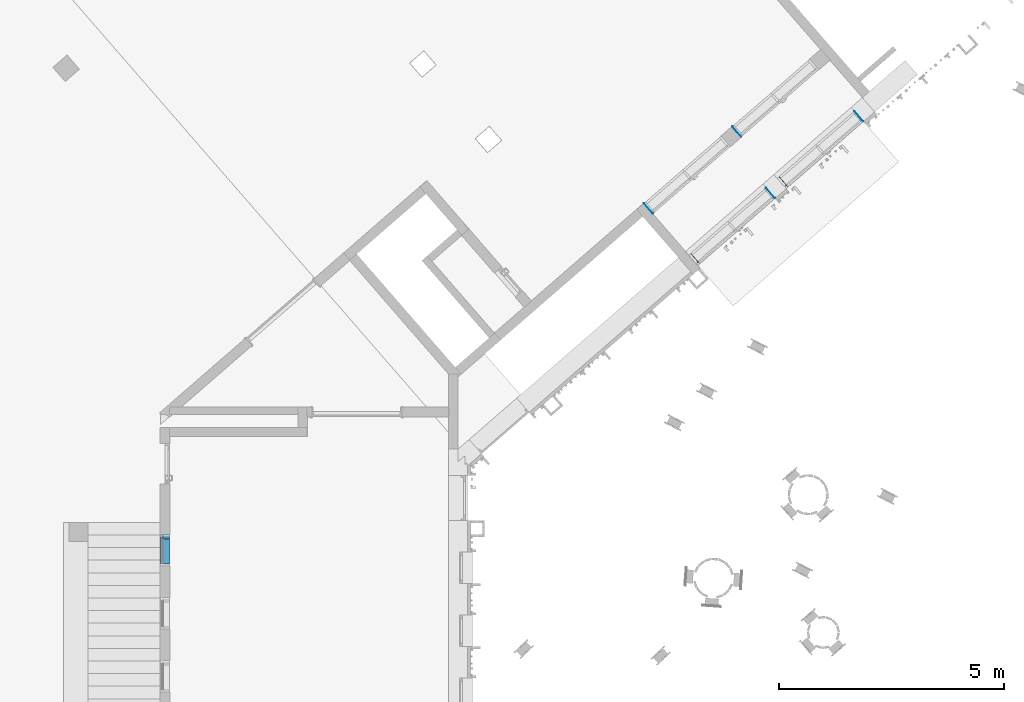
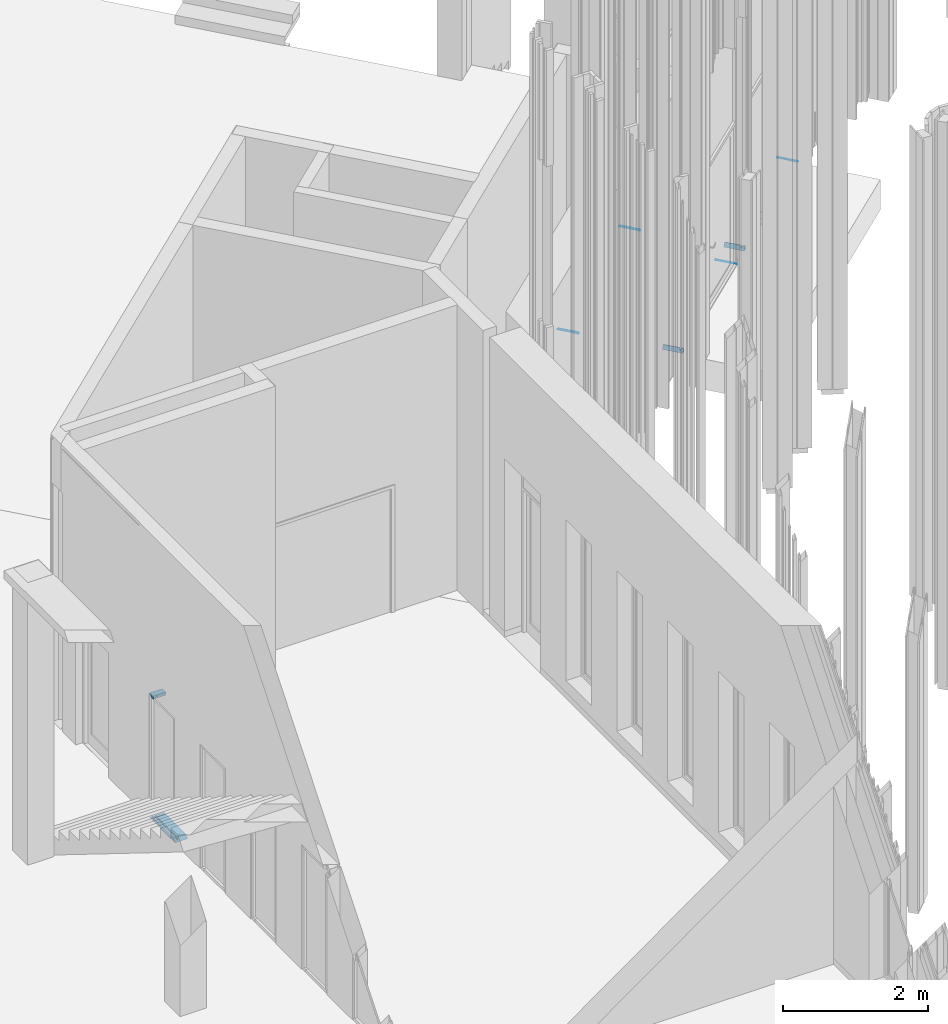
# One storey, part 65 of 390: 9 discrete accessories, 5 elements without a shape of their own.
"""IFC2X3 building model written with IfcOpenShell, lengths in millimetres."""

from ifc_helpers import new_model, entity, si_unit, converted_unit, derived_unit, money_unit, direction, frame, origin_with_axes, place, context, subcontext, project, spatial, polyline, outline, extrude, clip, halfspace, material, material_list, type_object, element, aggregate, save


model = new_model("IFC2X3")

# Units and contexts
model_context = context("Model", 3, precision=1e-05, world=origin_with_axes(), true_north=direction((0.0, 1.0)))
body_context = subcontext(model_context, "Body", "Model", "MODEL_VIEW")
ifc_project = project(units=[si_unit("LENGTHUNIT", "METRE", prefix="MILLI"), si_unit("AREAUNIT", "SQUARE_METRE"), si_unit("VOLUMEUNIT", "CUBIC_METRE"), converted_unit("PLANEANGLEUNIT", "DEGREE", entity("IfcPlaneAngleMeasure", 0.0174532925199), si_unit("PLANEANGLEUNIT", "RADIAN"), dimensions=[0, 0, 0, 0, 0, 0, 0]), si_unit("SOLIDANGLEUNIT", "STERADIAN"), money_unit("EUR"), converted_unit("TIMEUNIT", "Year", entity("IfcTimeMeasure", 31556926.0), si_unit("TIMEUNIT", "SECOND"), dimensions=[0, 0, 1, 0, 0, 0, 0]), si_unit("MASSUNIT", "GRAM", prefix="KILO"), si_unit("THERMODYNAMICTEMPERATUREUNIT", "DEGREE_CELSIUS"), si_unit("LUMINOUSINTENSITYUNIT", "LUMEN"), si_unit("ENERGYUNIT", "JOULE", prefix="MEGA"), derived_unit("THERMALCONDUCTANCEUNIT", [(si_unit("POWERUNIT", "WATT"), 1), (si_unit("LENGTHUNIT", "METRE"), -1), (si_unit("THERMODYNAMICTEMPERATUREUNIT", "KELVIN"), -1)]), derived_unit("SPECIFICHEATCAPACITYUNIT", [(si_unit("ENERGYUNIT", "JOULE"), 1), (si_unit("MASSUNIT", "GRAM", prefix="KILO"), -1), (si_unit("THERMODYNAMICTEMPERATUREUNIT", "KELVIN"), -1)]), derived_unit("MASSDENSITYUNIT", [(si_unit("MASSUNIT", "GRAM", prefix="KILO"), 1), (si_unit("VOLUMEUNIT", "CUBIC_METRE"), -1)])], contexts=[model_context])

# Site, building, storey
site_placement = place(None, origin_with_axes())
site = spatial("IfcSite", under=ifc_project, at=site_placement, Name="Site", CompositionType="ELEMENT")
building_placement = place(site_placement, origin_with_axes())
building = spatial("IfcBuilding", under=site, at=building_placement, Name="Building", CompositionType="ELEMENT")
storey_placement = place(building_placement, origin_with_axes())
storey = spatial("IfcBuildingStorey", under=building, at=storey_placement, Name="1 korrus", CompositionType="ELEMENT", Elevation=0.0)

# Curtain wall, discrete accessories
curtain_wall_type_1 = type_object("IfcCurtainWallType", Name="KLF-11", PredefinedType="NOTDEFINED")
curtain_wall_1_placement = place(storey_placement, frame((147184.214705, 72790.554617, -9.48523471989e-05), z_axis=(0.0, 0.0, 1.0), x_axis=(1.0, 0.0, 0.0)))
curtain_wall_1 = element("IfcCurtainWall", 1, at=curtain_wall_1_placement, inside=storey, type_object=curtain_wall_type_1, Name="Klaasfassaad")
ifc_material = material(Name="Aluminium MUST")
discrete_accessory_type_1 = type_object("IfcDiscreteAccessoryType", Name="50 x 300")
discrete_accessory_1_placement = place(curtain_wall_1_placement, frame((-384.054074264, -333.853113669, 0.0), z_axis=(-0.754709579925, -0.656059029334, 0.0), x_axis=(0.0, 0.0, 1.0)))
discrete_accessory_1 = element("IfcDiscreteAccessory", 2, at=discrete_accessory_1_placement, type_object=discrete_accessory_type_1, material=ifc_material, Name="KLF-11 profiil", context=body_context, shape_type="Clipping", body=[
    clip(extrude(outline(polyline([(10.0, -25.0), (10.0, -50.0), (250.0, -50.0), (250.0, 0.0), (-50.0, 0.0), (-50.0, -50.0), (-9.99999999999, -50.0), (-10.0, -25.0), (10.0, -25.0)])), frame((0.0, 0.0, 0.0), z_axis=(0.0, 0.0, 1.0), x_axis=(0.0, 1.0, 0.0)), (0.0, 0.0, 1.0), 61.1233612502), halfspace(frame((30.5616806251, 0.0, 30.5616806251), z_axis=(-0.707106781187, 0.0, -0.707106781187), x_axis=(0.0, 1.0, 0.0)), True)),
])
discrete_accessory_2_placement = place(curtain_wall_1_placement, frame((1290.55338167, 1121.86094016, 0.0), z_axis=(-0.754709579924, -0.656059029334, 0.0), x_axis=(0.0, 0.0, 1.0)))
discrete_accessory_2 = element("IfcDiscreteAccessory", 3, at=discrete_accessory_2_placement, type_object=discrete_accessory_type_1, material=ifc_material, Name="KLF-11 profiil", context=body_context, shape_type="Clipping", body=[
    clip(extrude(outline(polyline([(-50.0, -9.70212941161), (250.0, -9.70212941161), (250.0, 0.0), (-50.0, 0.0), (-50.0, -9.70212941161)])), frame((0.0, 0.0, 0.0), z_axis=(0.0, 0.0, 1.0), x_axis=(0.0, 1.0, 0.0)), (0.0, 0.0, 1.0), 9.70212941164), halfspace(frame((0.0, 0.0, 0.0), z_axis=(-0.707106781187, 0.0, 0.707106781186), x_axis=(0.0, -1.0, 0.0)), True)),
])
aggregate(curtain_wall_1, [discrete_accessory_1, discrete_accessory_2])

curtain_wall_2_placement = place(storey_placement, frame((145221.984499, 71084.8139219, -9.48523471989e-05), z_axis=(0.0, 0.0, 1.0), x_axis=(1.0, 0.0, 0.0)))
curtain_wall_2 = element("IfcCurtainWall", 4, at=curtain_wall_2_placement, inside=storey, type_object=curtain_wall_type_1, Name="Klaasfassaad")
discrete_accessory_3_placement = place(curtain_wall_2_placement, frame((-384.054074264, -333.853113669, 0.0), z_axis=(-0.754709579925, -0.656059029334, 0.0), x_axis=(0.0, 0.0, 1.0)))
discrete_accessory_3 = element("IfcDiscreteAccessory", 5, at=discrete_accessory_3_placement, type_object=discrete_accessory_type_1, material=ifc_material, Name="KLF-11 profiil", context=body_context, shape_type="Clipping", body=[
    clip(extrude(outline(polyline([(10.0, -25.0), (10.0, -50.0), (250.0, -50.0), (250.0, 0.0), (-50.0, 0.0), (-50.0, -50.0), (-9.99999999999, -50.0), (-10.0, -25.0), (10.0, -25.0)])), frame((0.0, 0.0, 0.0), z_axis=(0.0, 0.0, 1.0), x_axis=(0.0, 1.0, 0.0)), (0.0, 0.0, 1.0), 61.1233612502), halfspace(frame((30.5616806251, 0.0, 30.5616806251), z_axis=(-0.707106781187, 0.0, -0.707106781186), x_axis=(0.0, 1.0, 0.0)), True)),
])
discrete_accessory_4_placement = place(curtain_wall_2_placement, frame((1290.55338167, 1121.86094016, 0.0), z_axis=(-0.754709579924, -0.656059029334, 0.0), x_axis=(0.0, 0.0, 1.0)))
discrete_accessory_4 = element("IfcDiscreteAccessory", 6, at=discrete_accessory_4_placement, type_object=discrete_accessory_type_1, material=ifc_material, Name="KLF-11 profiil", context=body_context, shape_type="Clipping", body=[
    clip(extrude(outline(polyline([(-50.0, -9.70212941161), (250.0, -9.70212941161), (250.0, 0.0), (-50.0, 0.0), (-50.0, -9.70212941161)])), frame((0.0, 0.0, 0.0), z_axis=(0.0, 0.0, 1.0), x_axis=(0.0, 1.0, 0.0)), (0.0, 0.0, 1.0), 9.70212941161), halfspace(frame((0.0, 0.0, 0.0), z_axis=(-0.707106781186, 0.0, 0.707106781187), x_axis=(0.0, -1.0, 0.0)), True)),
])
aggregate(curtain_wall_2, [discrete_accessory_3, discrete_accessory_4])

# Curtain wall, discrete accessory
curtain_wall_type_2 = type_object("IfcCurtainWallType", Name="KS-16", PredefinedType="NOTDEFINED")
curtain_wall_3_placement = place(storey_placement, frame((144224.233035, 72231.5017266, -10.0342097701), z_axis=(0.0, 0.0, 1.0), x_axis=(1.0, 0.0, 0.0)))
curtain_wall_3 = element("IfcCurtainWall", 7, at=curtain_wall_3_placement, inside=storey, type_object=curtain_wall_type_2, Name="Klaas-sein")
discrete_accessory_type_2 = type_object("IfcDiscreteAccessoryType", Name="50 x 300")
discrete_accessory_5_placement = place(curtain_wall_3_placement, frame((-422.862182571, -367.588487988, 0.0), z_axis=(-0.754709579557, -0.656059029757, 0.0), x_axis=(0.0, 0.0, 1.0)))
discrete_accessory_5 = element("IfcDiscreteAccessory", 8, at=discrete_accessory_5_placement, type_object=discrete_accessory_type_2, material=ifc_material, Name="KLF-16 profiil", context=body_context, shape_type="Clipping", body=[
    clip(extrude(outline(polyline([(-50.0, -9.70211320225), (250.0, -9.70211320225), (250.0, 0.0), (-50.0, 0.0), (-50.0, -9.70211320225)])), frame((0.0, 0.0, 0.0), z_axis=(0.0, 0.0, 1.0), x_axis=(0.0, 1.0, 0.0)), (0.0, 0.0, 1.0), 9.70211320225), halfspace(frame((4.85105660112, 0.0, 4.85105660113), z_axis=(-0.707106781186, 0.0, -0.707106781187), x_axis=(0.0, 1.0, 0.0)), True)),
])
aggregate(curtain_wall_3, [discrete_accessory_5])

curtain_wall_4_placement = place(storey_placement, frame((146495.325504, 74205.7322919, -4.47035263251e-05), z_axis=(0.0, 0.0, 1.0), x_axis=(1.0, 0.0, 0.0)))
curtain_wall_4 = element("IfcCurtainWall", 9, at=curtain_wall_4_placement, inside=storey, type_object=curtain_wall_type_2, Name="Klaas-sein")
discrete_accessory_type_3 = type_object("IfcDiscreteAccessoryType", Name="50 x 300")
discrete_accessory_6_placement = place(curtain_wall_4_placement, frame((-731.182837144, -635.607543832, 0.0), z_axis=(-0.754709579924, -0.656059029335, 0.0), x_axis=(0.0, 0.0, 1.0)))
discrete_accessory_6 = element("IfcDiscreteAccessory", 10, at=discrete_accessory_6_placement, type_object=discrete_accessory_type_3, material=ifc_material, Name="KS-16 profiil", context=body_context, shape_type="Clipping", body=[
    clip(extrude(outline(polyline([(-50.0, -9.70211320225), (250.0, -9.70211320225), (250.0, 0.0), (-50.0, 0.0), (-50.0, -9.70211320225)])), frame((0.0, 0.0, 0.0), z_axis=(0.0, 0.0, 1.0), x_axis=(0.0, 1.0, 0.0)), (0.0, 0.0, 1.0), 9.70211320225), halfspace(frame((4.85105660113, 0.0, 4.85105660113), z_axis=(-0.707106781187, 0.0, -0.707106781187), x_axis=(0.0, 1.0, 0.0)), True)),
])
aggregate(curtain_wall_4, [discrete_accessory_6])

# Curtain wall, discrete accessories
curtain_wall_type_3 = type_object("IfcCurtainWallType", Name="KS-17", PredefinedType="NOTDEFINED")
curtain_wall_5_placement = place(storey_placement, frame((132939.999926, 64423.3918775, 0.0), z_axis=(0.0, 0.0, 1.0), x_axis=(1.0, 0.0, 0.0)))
curtain_wall_5 = element("IfcCurtainWall", 11, at=curtain_wall_5_placement, inside=storey, type_object=curtain_wall_type_3, Name="Klaas-sein")
ifc_material_list = material_list([ifc_material, ifc_material, ifc_material])
discrete_accessory_type_4 = type_object("IfcDiscreteAccessoryType", Name="50 x 200")
discrete_accessory_7_placement = place(curtain_wall_5_placement, frame((-8.81072992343e-10, 166.666643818, 0.0), z_axis=(0.0, -1.0, 0.0), x_axis=(0.0, 0.0, 1.0)))
discrete_accessory_7 = element("IfcDiscreteAccessory", 12, at=discrete_accessory_7_placement, type_object=discrete_accessory_type_4, material=ifc_material_list, Name="KS-17 profiil", context=body_context, shape_type="Clipping", body=[
    clip(extrude(outline(polyline([(-9.99999999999, -25.0), (10.0, -25.0), (9.99999999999, 0.0), (-9.99999999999, 0.0), (-9.99999999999, -25.0)])), frame((0.0, 0.0, 0.0), z_axis=(0.0, 0.0, 1.0), x_axis=(0.0, 1.0, 0.0)), (0.0, 0.0, 1.0), 599.999976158), halfspace(frame((299.999988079, 0.0, 299.999985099), z_axis=(-0.707106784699, 0.0, -0.707106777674), x_axis=(0.0, 1.0, 0.0)), True)),
    clip(extrude(outline(polyline([(-150.0, -50.0), (-9.99999999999, -50.0), (-9.99999999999, 0.0), (-150.0, 0.0), (-150.0, -50.0)])), frame((0.0, 0.0, 0.0), z_axis=(0.0, 0.0, 1.0), x_axis=(0.0, 1.0, 0.0)), (0.0, 0.0, 1.0), 599.999976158), halfspace(frame((299.999988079, 0.0, 299.999985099), z_axis=(-0.707106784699, 0.0, -0.707106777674), x_axis=(0.0, 1.0, 0.0)), True)),
    clip(extrude(outline(polyline([(50.0, 0.0), (9.99999999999, 0.0), (9.99999999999, -50.0), (50.0, -50.0), (50.0, 0.0)])), frame((0.0, 0.0, 0.0), z_axis=(0.0, 0.0, 1.0), x_axis=(0.0, 1.0, 0.0)), (0.0, 0.0, 1.0), 599.999976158), halfspace(frame((299.999988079, 0.0, 299.999985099), z_axis=(-0.707106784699, 0.0, -0.707106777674), x_axis=(0.0, 1.0, 0.0)), True)),
])
discrete_accessory_8_placement = place(curtain_wall_5_placement, frame((-8.81072992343e-10, 166.666643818, 2100.0), z_axis=(0.0, 1.0, 0.0), x_axis=(0.0, 0.0, -1.0)))
discrete_accessory_8 = element("IfcDiscreteAccessory", 13, at=discrete_accessory_8_placement, type_object=discrete_accessory_type_4, material=ifc_material_list, Name="KS-17 profiil", context=body_context, shape_type="Clipping", body=[
    clip(extrude(outline(polyline([(10.0, 25.0), (-9.99999999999, 25.0), (-9.99999999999, 0.0), (9.99999999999, 0.0), (10.0, 25.0)])), frame((0.0, 0.0, 0.0), z_axis=(0.0, 0.0, 1.0), x_axis=(0.0, -1.0, 0.0)), (0.0, 0.0, 1.0), 100.000044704), halfspace(frame((50.0000223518, 0.0, 50.0000218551), z_axis=(-0.707106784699, 0.0, -0.707106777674), x_axis=(0.0, 1.0, 0.0)), True)),
    clip(extrude(outline(polyline([(150.0, 50.0), (9.99999999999, 50.0), (9.99999999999, 0.0), (150.0, 0.0), (150.0, 50.0)])), frame((0.0, 0.0, 0.0), z_axis=(0.0, 0.0, 1.0), x_axis=(0.0, -1.0, 0.0)), (0.0, 0.0, 1.0), 100.000044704), halfspace(frame((50.0000223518, 0.0, 50.0000218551), z_axis=(-0.707106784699, 0.0, -0.707106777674), x_axis=(0.0, 1.0, 0.0)), True)),
    clip(extrude(outline(polyline([(-50.0, 0.0), (-9.99999999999, 0.0), (-9.99999999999, 50.0), (-50.0, 50.0), (-50.0, 0.0)])), frame((0.0, 0.0, 0.0), z_axis=(0.0, 0.0, 1.0), x_axis=(0.0, -1.0, 0.0)), (0.0, 0.0, 1.0), 100.000044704), halfspace(frame((50.0000223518, 0.0, 50.0000218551), z_axis=(-0.707106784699, 0.0, -0.707106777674), x_axis=(0.0, 1.0, 0.0)), True)),
])
discrete_accessory_9_placement = place(curtain_wall_5_placement, frame((-1.39266376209e-09, 266.66666766, 0.0), z_axis=(0.0, -1.0, 0.0), x_axis=(0.0, 0.0, 1.0)))
discrete_accessory_9 = element("IfcDiscreteAccessory", 14, at=discrete_accessory_9_placement, type_object=discrete_accessory_type_4, material=ifc_material_list, Name="KS-17 profiil", context=body_context, shape_type="Clipping", body=[
    clip(extrude(outline(polyline([(-9.99999999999, -25.0), (9.99999999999, -25.0), (9.99999999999, 0.0), (-9.99999999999, 0.0), (-9.99999999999, -25.0)])), frame((0.0, 0.0, 0.0), z_axis=(0.0, 0.0, 1.0), x_axis=(0.0, 1.0, 0.0)), (0.0, 0.0, 1.0), 100.000023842), halfspace(frame((0.0, 0.0, 0.0), z_axis=(-0.707106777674, 0.0, 0.707106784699), x_axis=(0.0, -1.0, 0.0)), True)),
    clip(extrude(outline(polyline([(-150.0, -50.0), (-9.99999999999, -50.0), (-9.99999999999, 0.0), (-150.0, 0.0), (-150.0, -50.0)])), frame((0.0, 0.0, 0.0), z_axis=(0.0, 0.0, 1.0), x_axis=(0.0, 1.0, 0.0)), (0.0, 0.0, 1.0), 100.000023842), halfspace(frame((0.0, 0.0, 0.0), z_axis=(-0.707106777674, 0.0, 0.707106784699), x_axis=(0.0, -1.0, 0.0)), True)),
    clip(extrude(outline(polyline([(50.0, 0.0), (9.99999999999, 0.0), (9.99999999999, -50.0), (50.0, -50.0), (50.0, 0.0)])), frame((0.0, 0.0, 0.0), z_axis=(0.0, 0.0, 1.0), x_axis=(0.0, 1.0, 0.0)), (0.0, 0.0, 1.0), 100.000023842), halfspace(frame((0.0, 0.0, 0.0), z_axis=(-0.707106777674, 0.0, 0.707106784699), x_axis=(0.0, -1.0, 0.0)), True)),
])
aggregate(curtain_wall_5, [discrete_accessory_7, discrete_accessory_8, discrete_accessory_9])

save(model, "model.ifc")
